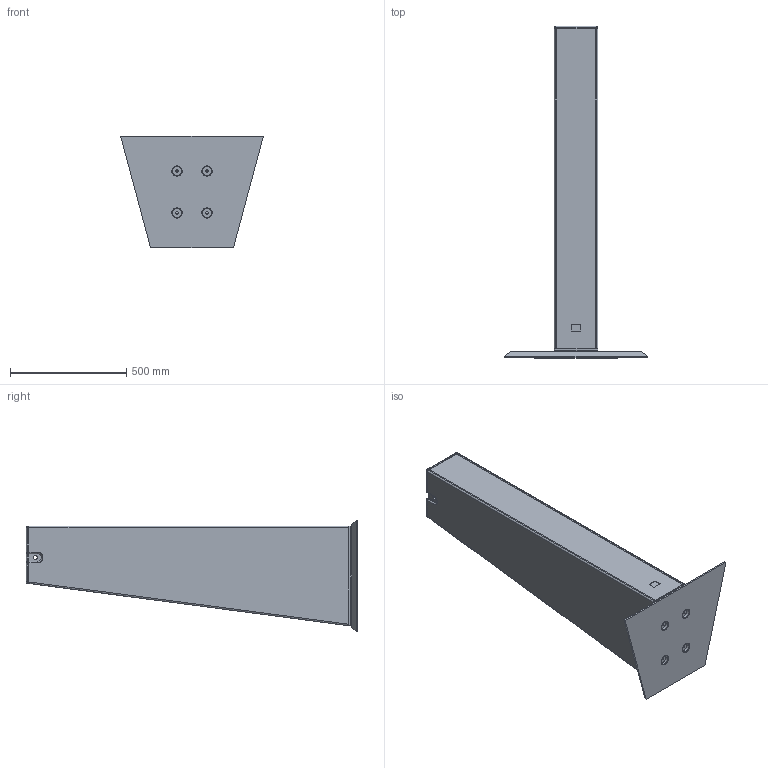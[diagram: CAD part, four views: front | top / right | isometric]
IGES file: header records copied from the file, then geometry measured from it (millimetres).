
Start section: SolidWorks IGES file using analytic representation for surfaces
Global section: file name: C:\Dokumente und Einstellungen\PC_Fabian\Desktop\SW-Konstruktionen Michl2010\GL-Sub\Internet\SEEBURG_GL-Sub.IGS; native system: SolidWorks 2009; preprocessor: SolidWorks 2009; author: PC_Fabian; date: 120926.135751; units: millimetre
Bounding box: 613.45 x 1427 x 479.11 mm (x, y, z)
Surface area: 3914557 mm2 (no closed solid volume)
Topology: 0 solids, 0 shells, 347 faces, 4355 edges, 4352 vertices
Faces by surface type: bspline 177, revolution 170
